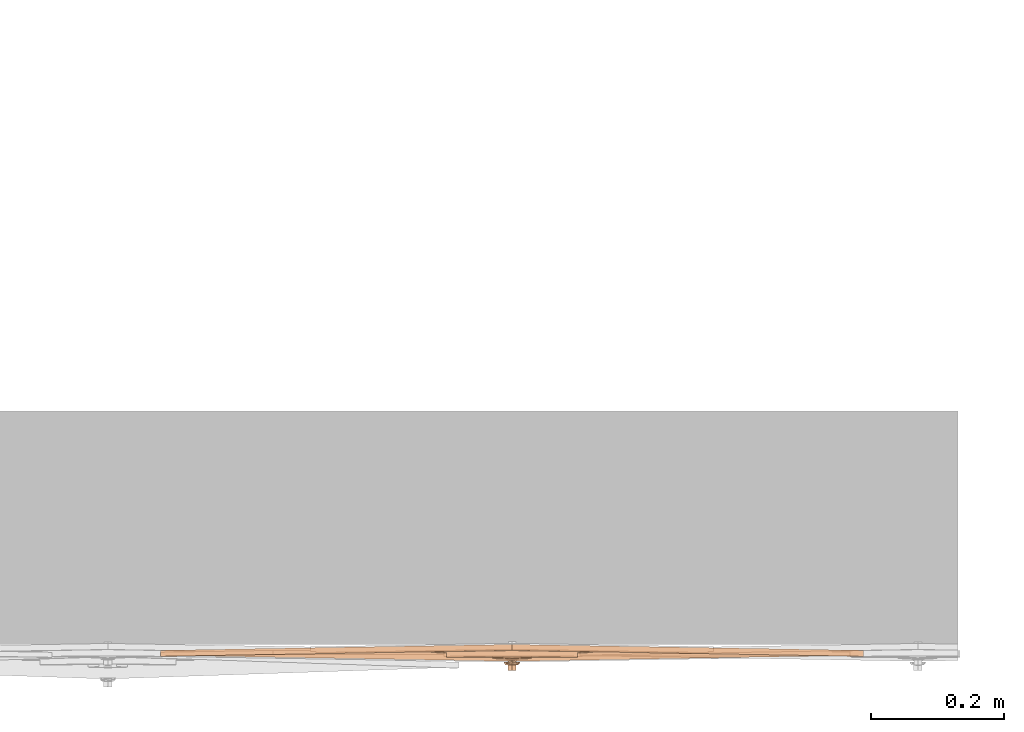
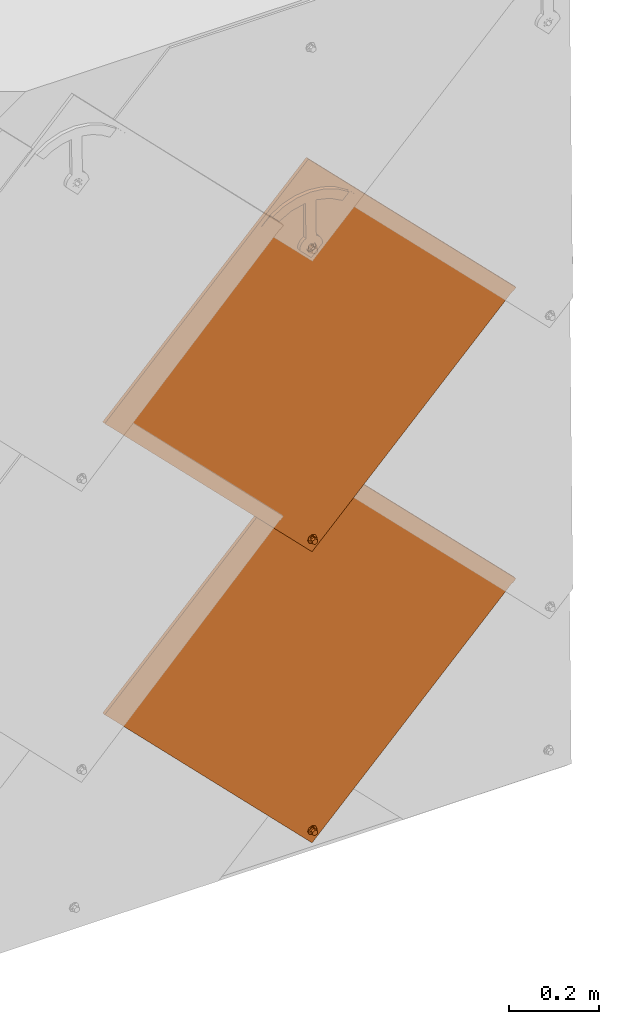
# One storey, part 7 of 151: 2 proxies.
"""IFC2X3 building model written with IfcOpenShell, lengths in millimetres."""

from ifc_helpers import new_model, entity, si_unit, converted_unit, derived_unit, direction, frame, origin, place, context, subcontext, project, spatial, faceted_brep, source, transform, mapped, material, material_list, type_object, type_shapes, element, save


model = new_model("IFC2X3")

# Units and contexts
model_context = context("Model", 3, precision=0.01, world=origin(), true_north=direction((6.12303176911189e-17, 1.0)))
body_context = subcontext(model_context, "Body", "Model", "MODEL_VIEW")
ifc_project = project(units=[si_unit("LENGTHUNIT", "METRE", prefix="MILLI"), si_unit("AREAUNIT", "SQUARE_METRE"), si_unit("VOLUMEUNIT", "CUBIC_METRE"), converted_unit("PLANEANGLEUNIT", "DEGREE", entity("IfcRatioMeasure", 0.0174532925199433), si_unit("PLANEANGLEUNIT", "RADIAN"), dimensions=[0, 0, 0, 0, 0, 0, 0]), si_unit("MASSUNIT", "GRAM", prefix="KILO"), derived_unit("MASSDENSITYUNIT", [(si_unit("MASSUNIT", "GRAM", prefix="KILO"), 1), (si_unit("LENGTHUNIT", "METRE"), -3)]), si_unit("TIMEUNIT", "SECOND"), si_unit("FREQUENCYUNIT", "HERTZ"), si_unit("THERMODYNAMICTEMPERATUREUNIT", "DEGREE_CELSIUS"), derived_unit("THERMALTRANSMITTANCEUNIT", [(si_unit("MASSUNIT", "GRAM", prefix="KILO"), 1), (si_unit("THERMODYNAMICTEMPERATUREUNIT", "KELVIN"), -1), (si_unit("TIMEUNIT", "SECOND"), -3)]), derived_unit("VOLUMETRICFLOWRATEUNIT", [(si_unit("LENGTHUNIT", "METRE"), 3), (si_unit("TIMEUNIT", "SECOND"), -1)]), si_unit("ELECTRICCURRENTUNIT", "AMPERE"), si_unit("ELECTRICVOLTAGEUNIT", "VOLT"), si_unit("POWERUNIT", "WATT"), si_unit("FORCEUNIT", "NEWTON", prefix="KILO"), si_unit("ILLUMINANCEUNIT", "LUX"), si_unit("LUMINOUSFLUXUNIT", "LUMEN"), si_unit("LUMINOUSINTENSITYUNIT", "CANDELA"), derived_unit("USERDEFINED", [(si_unit("MASSUNIT", "GRAM", prefix="KILO"), -1), (si_unit("LENGTHUNIT", "METRE"), -2), (si_unit("TIMEUNIT", "SECOND"), 3), (si_unit("LUMINOUSFLUXUNIT", "LUMEN"), 1)]), derived_unit("LINEARVELOCITYUNIT", [(si_unit("LENGTHUNIT", "METRE"), 1), (si_unit("TIMEUNIT", "SECOND"), -1)]), si_unit("PRESSUREUNIT", "PASCAL"), derived_unit("USERDEFINED", [(si_unit("LENGTHUNIT", "METRE"), -2), (si_unit("MASSUNIT", "GRAM", prefix="KILO"), 1), (si_unit("TIMEUNIT", "SECOND"), -2)])], contexts=[model_context])

# Site, building, storey
site_placement = place(None, origin())
site = spatial("IfcSite", under=ifc_project, at=site_placement, Name="Default", CompositionType="ELEMENT")
building_placement = place(site_placement, origin())
building = spatial("IfcBuilding", under=site, at=building_placement, CompositionType="ELEMENT")
storey_placement = place(building_placement, origin())
storey = spatial("IfcBuildingStorey", under=building, at=storey_placement, Name="Level 1", CompositionType="ELEMENT", Elevation=0.0)

# Proxies
ifc_material_1 = material(Name="Rubber - Sunstyle - Black")
ifc_material_2 = material(Name="Glass - Sunstyle - Tainted Terracotta")
ifc_material_list_1 = material_list([ifc_material_1, ifc_material_2])
ifc_material_list_2 = material_list([ifc_material_1, ifc_material_2])
building_element_proxy_type = type_object("IfcBuildingElementProxyType", Name="Non PV Shingle - Terracotta", PredefinedType="NOTDEFINED", material=ifc_material_list_2)
shared_shape = source(origin(), body_context, "Body", "Brep", [
    faceted_brep([(0.0, -485.159313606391, 4.00636906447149), (-5.77420283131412, -488.492583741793, 4.062193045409), (-5.77420283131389, -488.124274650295, 26.0540623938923), (0.0, -484.791004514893, 25.9982384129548), (-5.77420283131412, -495.159124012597, 4.17384100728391), (-5.7742028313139, -494.790814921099, 26.1657103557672), (0.0, -498.492394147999, 4.2296649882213), (0.0, -498.1240850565, 26.2215343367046), (5.77420283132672, -495.159124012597, 4.17384100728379), (5.77420283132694, -494.790814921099, 26.1657103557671), (5.77420283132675, -488.492583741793, 4.06219304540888), (5.77420283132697, -488.124274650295, 26.0540623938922), (-8.60370416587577, -500.060042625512, 26.2539568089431), (0.0, -503.623313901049, 26.3136327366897), (-12.1674751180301, -491.457544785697, 26.1098863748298), (-8.60370416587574, -482.855046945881, 25.9658159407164), (0.0, -479.291775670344, 25.9061400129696), (8.60370416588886, -482.855046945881, 25.9658159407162), (12.1674751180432, -491.457544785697, 26.1098863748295), (8.60370416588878, -500.060042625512, 26.2539568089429), (-11.3242446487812, -489.162467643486, 28.4227283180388), (-9.75647455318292, -491.386529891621, 30.3502110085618), (0.0, -484.073454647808, 30.9829114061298), (0.0, -482.832957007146, 30.4025647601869), (0.0, -480.675406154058, 29.3931896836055), (0.0, -503.067269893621, 27.5886907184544), (0.0, -502.123693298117, 29.7523951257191), (0.0, -498.67431759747, 31.227439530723), (0.0, -479.804811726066, 27.19910242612), (-6.32324569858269, -495.024101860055, 31.1663074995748), (-6.32324569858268, -487.723670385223, 31.0440434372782), (11.3242446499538, -493.673887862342, 28.4982833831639), (9.84888015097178, -492.460936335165, 30.2713428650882), (6.32324569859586, -487.723670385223, 31.0440434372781), (6.32324569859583, -495.024101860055, 31.1663074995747), (-6.32324569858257, -494.890073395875, 39.1691956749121), (0.0, -498.54028913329, 39.2303277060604), (0.0, -491.239857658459, 39.1080636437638), (-6.32324569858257, -487.589641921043, 39.0469316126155), (6.32324569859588, -494.890073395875, 39.169195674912), (6.32324569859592, -487.589641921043, 39.0469316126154), (0.0, -483.939426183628, 38.9857995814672), (0.0, -491.825853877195, 4.11801702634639)], [[[0, 1, 2, 3]], [[1, 4, 5, 2]], [[4, 6, 7, 5]], [[6, 8, 9, 7]], [[8, 10, 11, 9]], [[10, 0, 3, 11]], [[12, 7, 13]], [[7, 12, 5]], [[14, 5, 12]], [[5, 14, 2]], [[15, 2, 14]], [[3, 2, 15]], [[15, 16, 3]], [[16, 17, 3]], [[11, 3, 17]], [[11, 17, 18]], [[9, 11, 18]], [[18, 19, 9]], [[7, 9, 19]], [[19, 13, 7]], [[20, 14, 12]], [[21, 22, 23, 24]], [[24, 20, 21]], [[25, 20, 12]], [[26, 27, 21]], [[15, 14, 20]], [[12, 13, 25]], [[20, 28, 15]], [[28, 20, 24]], [[21, 27, 29]], [[21, 29, 30]], [[26, 21, 20]], [[20, 25, 26]], [[15, 28, 16]], [[21, 30, 22]], [[31, 18, 17]], [[28, 31, 17]], [[32, 27, 26]], [[26, 31, 32]], [[26, 25, 31]], [[25, 19, 31]], [[17, 16, 28]], [[31, 19, 18]], [[24, 31, 28]], [[33, 34, 32]], [[23, 22, 33]], [[24, 32, 31]], [[27, 32, 34]], [[32, 23, 33]], [[19, 25, 13]], [[32, 24, 23]], [[35, 36, 37]], [[37, 38, 35]], [[36, 39, 37]], [[40, 37, 39]], [[37, 40, 41]], [[37, 41, 38]], [[42, 6, 4]], [[4, 1, 42]], [[1, 0, 42]], [[42, 8, 6]], [[0, 10, 42]], [[8, 42, 10]], [[22, 30, 38, 41]], [[30, 29, 35, 38]], [[29, 27, 36, 35]], [[27, 34, 39, 36]], [[34, 33, 40, 39]], [[33, 22, 41, 40]]]),
    faceted_brep([(0.0, 284.789208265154, 20.3195200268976), (0.0, 289.288576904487, 20.2441667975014), (-8.60370416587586, 288.352479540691, 20.259844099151), (8.60370416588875, 288.352479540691, 20.2598440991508), (6.64022859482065, 293.121777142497, 20.1799702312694), (12.1674751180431, 296.954977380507, 20.1157736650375), (6.64022859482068, 300.788177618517, 20.0515770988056), (8.60370416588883, 305.557475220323, 19.9717032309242), (0.0, 304.621377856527, 19.9873805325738), (0.0, 309.12074649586, 19.9120273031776), (-8.60370416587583, 305.557475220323, 19.9717032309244), (-6.64022859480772, 300.788177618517, 20.0515770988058), (-12.1674751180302, 296.954977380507, 20.1157736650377), (-6.64022859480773, 293.121777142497, 20.1799702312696), (-6.6402282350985, 300.520254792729, 4.05382046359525), (0.0, 304.35345482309, 3.9896239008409), (-6.64022823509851, 292.853854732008, 4.18221358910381), (0.0, 289.020654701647, 4.24641015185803), (6.64022823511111, 292.853854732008, 4.18221358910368), (6.64022823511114, 300.520254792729, 4.05382046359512), (-8.60370416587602, 288.084556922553, 4.26208746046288), (0.0, 284.521285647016, 4.32176338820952), (-12.1674751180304, 296.687054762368, 4.11801702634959), (-8.603704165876, 305.289552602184, 3.97394659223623), (0.0, 308.852823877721, 3.91427066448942), (8.60370416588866, 305.289552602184, 3.97394659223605), (12.167475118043, 296.687054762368, 4.11801702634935), (8.60370416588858, 288.084556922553, 4.26208746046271)], [[[0, 1, 2]], [[1, 0, 3]], [[3, 4, 1]], [[4, 3, 5]], [[6, 4, 5]], [[5, 7, 6]], [[7, 8, 6]], [[8, 7, 9]], [[8, 9, 10]], [[10, 11, 8]], [[12, 11, 10]], [[2, 13, 12]], [[12, 13, 11]], [[13, 2, 1]], [[8, 11, 14, 15]], [[11, 13, 16, 14]], [[13, 1, 17, 16]], [[1, 4, 18, 17]], [[4, 6, 19, 18]], [[6, 8, 15, 19]], [[20, 17, 21]], [[17, 20, 16]], [[22, 16, 20]], [[14, 16, 22]], [[23, 14, 22]], [[15, 14, 23]], [[23, 24, 15]], [[24, 25, 15]], [[19, 15, 25]], [[19, 25, 26]], [[26, 18, 19]], [[26, 27, 18]], [[17, 18, 27]], [[27, 21, 17]], [[24, 23, 10, 9]], [[10, 23, 22, 12]], [[20, 21, 0, 2]], [[20, 2, 12, 22]], [[21, 27, 3, 0]], [[3, 27, 26, 5]], [[25, 24, 9, 7]], [[25, 7, 5, 26]]]),
    faceted_brep([(518.347125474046, -8.50591218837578, 16.4460771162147), (526.831811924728, -0.0212257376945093, 16.3039797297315), (526.831811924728, 0.00389200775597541, 17.8037694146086), (518.347125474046, -8.48079444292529, 17.9458668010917), (0.000322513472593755, 509.695546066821, 7.76749207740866), (-518.346480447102, -8.50591218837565, 16.4460771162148), (-526.831166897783, -0.021225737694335, 16.3039797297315), (0.000322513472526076, 526.662539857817, 7.48333714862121), (0.000322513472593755, 526.687657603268, 8.98312683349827), (-526.831166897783, 0.00389200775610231, 17.8037694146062), (-518.346480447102, -8.48079444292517, 17.9458668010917), (0.000322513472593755, 509.720663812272, 9.26728176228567)], [[[0, 1, 2, 3]], [[1, 0, 4, 5, 6, 7]], [[2, 1, 7, 8]], [[3, 2, 8, 9, 10, 11]], [[0, 3, 11, 4]], [[5, 10, 9, 6]], [[8, 7, 6, 9]], [[4, 11, 10, 5]]]),
    faceted_brep([(0.000322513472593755, 526.662539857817, 7.48333714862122), (-3.10582854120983, 308.054627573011, 11.1444757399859), (0.0, 308.46346032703, 11.1376288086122), (-6.0, 306.855990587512, 11.1645499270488), (3.10582854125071, 308.054627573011, 11.1444757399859), (6.0, 306.855990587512, 11.1645499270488), (8.4852813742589, 304.949234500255, 11.1964833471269), (10.3923048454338, 302.464301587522, 11.2380997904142), (-8.48528137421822, 304.949234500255, 11.1964833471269), (-10.3923048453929, 302.464301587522, 11.2380997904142), (-11.5911099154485, 299.570535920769, 11.2865631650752), (-526.831166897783, -0.0212257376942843, 16.3039797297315), (11.5911099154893, 299.570535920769, 11.2865631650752), (526.831811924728, -0.021225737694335, 16.3039797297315), (-12.0, 296.465142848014, 11.3385707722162), (-11.5911099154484, 293.359749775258, 11.3905783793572), (-10.392304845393, 290.465984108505, 11.4390417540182), (-8.48528137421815, 287.981051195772, 11.4806581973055), (-6.0, 286.074295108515, 11.5125916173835), (-3.10582854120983, 284.875658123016, 11.5326658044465), (-2.07055236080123, -483.623303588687, 24.4031112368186), (-4.0, -484.422394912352, 24.4164940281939), (-5.65685424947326, -485.693565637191, 24.4377829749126), (-6.92820323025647, -487.350187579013, 24.4655272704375), (-7.72740661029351, -489.279364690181, 24.4978361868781), (-8.0, -491.349626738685, 24.5325079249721), (-7.72740661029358, -493.419888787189, 24.5671796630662), (0.000322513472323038, -526.704991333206, 25.1246223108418), (-6.92820323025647, -495.349065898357, 24.5994885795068), (-5.65685424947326, -497.005687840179, 24.6272328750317), (-4.0, -498.276858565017, 24.6485218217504), (-2.0705523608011, -499.075949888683, 24.6619046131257), (0.0, -499.348505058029, 24.6664692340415), (2.07055236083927, -499.075949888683, 24.6619046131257), (4.0, -498.276858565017, 24.6485218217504), (5.65685424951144, -497.005687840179, 24.6272328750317), (6.92820323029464, -495.349065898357, 24.5994885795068), (7.72740661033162, -493.419888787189, 24.5671796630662), (12.0, 296.465142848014, 11.3385707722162), (11.5911099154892, 293.359749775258, 11.3905783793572), (10.3923048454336, 290.465984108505, 11.4390417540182), (8.4852813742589, 287.981051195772, 11.4806581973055), (6.0, 286.074295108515, 11.5125916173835), (3.10582854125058, 284.875658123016, 11.5326658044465), (2.07055236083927, -483.623303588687, 24.4031112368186), (4.0, -484.422394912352, 24.4164940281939), (5.65685424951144, -485.69356563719, 24.4377829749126), (8.0, -491.349626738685, 24.5325079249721), (7.72740661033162, -489.279364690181, 24.4978361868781), (6.92820323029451, -487.350187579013, 24.4655272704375), (0.0, 284.466825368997, 11.5395127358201), (0.0, -483.350748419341, 24.3985466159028), (-526.831166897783, -0.146814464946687, 8.80503130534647), (-6.92820323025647, -487.475776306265, 16.9665788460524), (-7.72740661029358, -489.404953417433, 16.9988877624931), (-5.65685424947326, -485.819154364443, 16.9388345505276), (-8.0, -491.475215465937, 17.0335595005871), (-7.72740661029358, -493.545477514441, 17.0682312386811), (0.000322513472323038, -526.830580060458, 17.6256738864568), (-4.0, -484.547983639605, 16.9175456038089), (-2.07055236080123, -483.748892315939, 16.9041628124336), (-3.10582854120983, 284.750069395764, 4.03371738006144), (-6.0, 285.948706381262, 4.01364319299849), (-8.48528137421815, 287.85546246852, 3.98170977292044), (-10.392304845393, 290.340395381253, 3.94009332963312), (-11.5911099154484, 293.234161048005, 3.89162995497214), (-12.0, 296.339554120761, 3.83962234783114), (-11.5911099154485, 299.444947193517, 3.78761474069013), (0.000322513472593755, 526.536951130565, -0.0156112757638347), (-10.3923048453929, 302.338712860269, 3.73915136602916), (-8.48528137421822, 304.823645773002, 3.69753492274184), (-6.0, 306.73040186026, 3.66560150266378), (-3.10582854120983, 307.929038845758, 3.64552731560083), (0.0, 308.337871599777, 3.63868038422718), (3.10582854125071, 307.929038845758, 3.64552731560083), (6.0, 306.73040186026, 3.66560150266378), (8.4852813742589, 304.823645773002, 3.69753492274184), (10.3923048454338, 302.338712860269, 3.73915136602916), (11.5911099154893, 299.444947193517, 3.78761474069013), (526.831811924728, -0.146814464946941, 8.80503130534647), (7.72740661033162, -493.545477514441, 17.0682312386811), (8.0, -491.475215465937, 17.0335595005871), (7.72740661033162, -489.404953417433, 16.9988877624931), (6.92820323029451, -487.475776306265, 16.9665788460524), (5.65685424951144, -485.819154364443, 16.9388345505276), (4.0, -484.547983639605, 16.9175456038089), (2.07055236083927, -483.748892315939, 16.9041628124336), (3.10582854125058, 284.750069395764, 4.03371738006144), (6.0, 285.948706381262, 4.01364319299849), (12.0, 296.339554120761, 3.83962234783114), (11.5911099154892, 293.234161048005, 3.89162995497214), (10.3923048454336, 290.340395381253, 3.94009332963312), (8.4852813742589, 287.85546246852, 3.98170977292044), (0.0, 284.341236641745, 4.04056431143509), (0.0, -483.476337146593, 16.8995981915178), (-6.92820323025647, -495.474654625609, 17.1005401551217), (-5.65685424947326, -497.131276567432, 17.1282844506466), (-4.0, -498.40244729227, 17.1495733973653), (-2.0705523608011, -499.201538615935, 17.1629561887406), (0.0, -499.474093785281, 17.1675208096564), (2.07055236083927, -499.201538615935, 17.1629561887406), (4.0, -498.40244729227, 17.1495733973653), (5.65685424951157, -497.131276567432, 17.1282844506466), (6.92820323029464, -495.474654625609, 17.1005401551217)], [[[0, 1, 2]], [[1, 0, 3]], [[0, 2, 4]], [[4, 5, 0]], [[5, 6, 0]], [[0, 6, 7]], [[8, 3, 0]], [[9, 8, 0]], [[9, 0, 10]], [[10, 0, 11]], [[12, 0, 7]], [[12, 13, 0]], [[11, 14, 10]], [[14, 11, 15]], [[16, 15, 11]], [[16, 11, 17]], [[18, 17, 11]], [[11, 19, 18]], [[19, 11, 20]], [[21, 20, 11]], [[11, 22, 21]], [[22, 11, 23]], [[23, 11, 24]], [[25, 24, 11]], [[25, 11, 26]], [[26, 11, 27]], [[27, 28, 26]], [[29, 28, 27]], [[30, 29, 27]], [[31, 30, 27]], [[27, 32, 31]], [[32, 27, 33]], [[34, 33, 27]], [[34, 27, 35]], [[36, 35, 27]], [[37, 36, 27]], [[37, 27, 13]], [[12, 38, 13]], [[39, 13, 38]], [[13, 39, 40]], [[13, 40, 41]], [[41, 42, 13]], [[42, 43, 13]], [[13, 43, 44]], [[45, 13, 44]], [[46, 13, 45]], [[47, 37, 13]], [[48, 47, 13]], [[49, 48, 13]], [[46, 49, 13]], [[20, 50, 19]], [[51, 50, 20]], [[44, 50, 51]], [[43, 50, 44]], [[52, 53, 54]], [[53, 52, 55]], [[52, 54, 56]], [[56, 57, 52]], [[52, 57, 58]], [[59, 55, 52]], [[60, 59, 52]], [[60, 52, 61]], [[61, 52, 62]], [[63, 62, 52]], [[64, 63, 52]], [[65, 64, 52]], [[66, 65, 52]], [[66, 52, 67]], [[52, 68, 67]], [[69, 67, 68]], [[70, 69, 68]], [[68, 71, 70]], [[71, 68, 72]], [[72, 68, 73]], [[74, 73, 68]], [[74, 68, 75]], [[76, 75, 68]], [[68, 77, 76]], [[77, 68, 78]], [[68, 79, 78]], [[58, 80, 79]], [[81, 79, 80]], [[81, 82, 79]], [[82, 83, 79]], [[84, 79, 83]], [[79, 84, 85]], [[85, 86, 79]], [[87, 79, 86]], [[87, 88, 79]], [[89, 78, 79]], [[79, 90, 89]], [[90, 79, 91]], [[92, 91, 79]], [[92, 79, 88]], [[93, 60, 61]], [[93, 86, 94]], [[94, 60, 93]], [[87, 86, 93]], [[58, 57, 95]], [[96, 58, 95]], [[96, 97, 58]], [[97, 98, 58]], [[99, 58, 98]], [[58, 99, 100]], [[58, 100, 101]], [[101, 102, 58]], [[102, 103, 58]], [[103, 80, 58]], [[11, 0, 68, 52]], [[27, 11, 52, 58]], [[13, 27, 58, 79]], [[0, 13, 79, 68]], [[25, 56, 54, 24]], [[24, 54, 53, 23]], [[21, 22, 55, 59]], [[55, 22, 23, 53]], [[20, 21, 59, 60]], [[20, 60, 94, 51]], [[51, 94, 86, 44]], [[44, 86, 85, 45]], [[49, 46, 84, 83]], [[84, 46, 45, 85]], [[48, 49, 83, 82]], [[48, 82, 81, 47]], [[47, 81, 80, 37]], [[37, 80, 103, 36]], [[34, 35, 102, 101]], [[102, 35, 36, 103]], [[33, 34, 101, 100]], [[33, 100, 99, 32]], [[32, 99, 98, 31]], [[31, 98, 97, 30]], [[28, 29, 96, 95]], [[96, 29, 30, 97]], [[26, 28, 95, 57]], [[26, 57, 56, 25]], [[14, 66, 67, 10]], [[10, 67, 69, 9]], [[3, 8, 70, 71]], [[70, 8, 9, 69]], [[1, 3, 71, 72]], [[1, 72, 73, 2]], [[2, 73, 74, 4]], [[4, 74, 75, 5]], [[7, 6, 76, 77]], [[76, 6, 5, 75]], [[12, 7, 77, 78]], [[12, 78, 89, 38]], [[38, 89, 90, 39]], [[39, 90, 91, 40]], [[42, 41, 92, 88]], [[40, 91, 92, 41]], [[87, 43, 42, 88]], [[43, 87, 93, 50]], [[50, 93, 61, 19]], [[19, 61, 62, 18]], [[16, 17, 63, 64]], [[63, 17, 18, 62]], [[15, 16, 64, 65]], [[15, 65, 66, 14]]]),
    faceted_brep([(-103.640919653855, 371.082989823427, 12.5892580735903), (-81.5635806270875, 393.15723338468, 12.2195694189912), (-98.1147183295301, 409.705441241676, 11.9424281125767), (-106.2656930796, 403.014562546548, 12.0544836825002), (-113.962762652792, 395.806279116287, 12.1752044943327), (-121.16572423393, 388.605337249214, 12.295802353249), (121.446435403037, 388.886009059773, 12.2911017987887), (110.715435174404, 399.614000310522, 12.1114346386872), (104.744439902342, 405.287275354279, 12.0164213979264), (98.4920378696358, 410.648923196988, 11.9266271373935), (98.074476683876, 410.231479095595, 11.933618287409), (98.234751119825, 410.108922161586, 11.9356708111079), (98.3948723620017, 409.986165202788, 11.9377266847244), (81.6917048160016, 393.285339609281, 12.2174239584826), (103.769043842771, 371.211096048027, 12.5871126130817), (-23.2046504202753, 315.000563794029, 21.029550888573), (-8.48528137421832, 305.451589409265, 21.1894724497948), (-18.7041061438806, 319.633569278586, 20.951959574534), (-10.392304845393, 302.966656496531, 21.2310888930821), (-26.5842195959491, 309.496413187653, 21.1217317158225), (-11.5911099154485, 300.072890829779, 21.2795522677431), (-28.6795527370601, 303.387013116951, 21.2240489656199), (-12.0, 296.967497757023, 21.3315598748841), (-29.3894280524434, 296.967497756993, 21.3315598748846), (-11.5911099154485, 293.862104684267, 21.3835674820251), (-10.392304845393, 290.968339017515, 21.4320308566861), (-8.48528137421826, 288.483406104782, 21.4736472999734), (0.0, 267.58219039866, 21.8236906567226), (-6.0, 286.576650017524, 21.5055807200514), (-3.10582854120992, 285.378013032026, 21.5256549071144), (0.0, 284.969180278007, 21.532501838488), (3.10582854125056, 285.378013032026, 21.5256549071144), (6.0, 286.576650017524, 21.5055807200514), (8.48528137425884, 288.483406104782, 21.4736472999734), (29.389428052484, 296.967497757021, 21.3315598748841), (10.3923048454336, 290.968339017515, 21.4320308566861), (11.5911099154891, 293.862104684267, 21.3835674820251), (12.0, 296.967497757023, 21.3315598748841), (28.6795527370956, 303.387013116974, 21.2240489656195), (11.5911099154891, 300.072890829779, 21.2795522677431), (26.5842195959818, 309.49641318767, 21.1217317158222), (10.3923048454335, 302.966656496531, 21.2310888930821), (23.2046504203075, 315.000563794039, 21.0295508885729), (8.48528137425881, 305.451589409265, 21.1894724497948), (18.7041061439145, 319.633569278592, 20.9519595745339), (6.0, 307.358345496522, 21.1575390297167), (13.3000000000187, 323.171617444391, 20.8927060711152), (3.10582854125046, 308.55698248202, 21.1374648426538), (0.0, 308.965815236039, 21.1306179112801), (-13.2999999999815, 323.171617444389, 20.8927060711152), (-13.2999999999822, 418.050603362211, 19.3037191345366), (13.3000000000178, 418.050603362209, 19.3037191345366), (0.0, 443.522216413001, 18.8771329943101), (34.9852699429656, 439.689674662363, 18.9413185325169), (48.8881158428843, 409.917561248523, 19.4399273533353), (68.3106161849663, 428.373889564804, 19.1308297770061), (81.1868897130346, 392.906184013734, 19.7248255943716), (98.3948723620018, 410.11175393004, 19.4366751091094), (-34.9852699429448, 439.689674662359, 18.941318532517), (-48.8881158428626, 409.917561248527, 19.4399273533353), (-68.3106161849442, 428.373889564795, 19.1308297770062), (-81.1868897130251, 392.906184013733, 19.7248255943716), (-98.3948723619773, 410.111753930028, 19.4366751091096), (-6.0, 307.358345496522, 21.1575390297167), (-3.10582854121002, 308.55698248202, 21.1374648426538), (0.0, 267.414738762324, 11.8250927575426), (0.0, 284.80172864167, 11.533903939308), (3.10582854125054, 285.210561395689, 11.5270570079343), (-3.10582854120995, 285.210561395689, 11.5270570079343), (6.0, 286.409198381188, 11.5069828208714), (8.48528137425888, 288.315954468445, 11.4750494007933), (29.389428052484, 296.800046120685, 11.332961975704), (-6.0, 286.409198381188, 11.5069828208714), (-8.48528137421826, 288.315954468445, 11.4750494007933), (-29.3894280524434, 296.800046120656, 11.3329619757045), (-10.392304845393, 290.800887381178, 11.433432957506), (-11.5911099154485, 293.694653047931, 11.384969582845), (-12.0, 296.800046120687, 11.332961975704), (-28.6795527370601, 303.219561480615, 11.2254510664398), (-11.5911099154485, 299.905439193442, 11.280954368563), (-26.5842195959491, 309.328961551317, 11.1231338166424), (-10.392304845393, 302.799204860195, 11.232490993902), (-23.2046504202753, 314.833112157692, 11.030952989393), (-8.48528137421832, 305.284137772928, 11.1908745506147), (-18.7041061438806, 319.466117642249, 10.9533616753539), (-6.0, 307.190893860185, 11.1589411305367), (-13.2999999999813, 323.004165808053, 10.8941081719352), (-3.10582854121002, 308.389530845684, 11.1388669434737), (0.0, 308.798363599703, 11.1320200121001), (13.3000000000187, 323.004165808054, 10.8941081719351), (13.3000000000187, 417.883151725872, 9.30512123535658), (-13.2999999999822, 417.883151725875, 9.30512123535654), (-0.199443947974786, 443.35464169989, 8.87853715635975), (-35.1150635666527, 439.493384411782, 8.94320360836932), (-48.8881158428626, 409.75010961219, 9.44132945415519), (-68.3708539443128, 428.178324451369, 9.13270270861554), (-81.5627248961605, 393.11622608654, 9.71990561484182), (-81.1868897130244, 392.738732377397, 9.72622769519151), (-98.1143736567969, 409.663842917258, 9.44277420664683), (-106.2656930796, 402.972699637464, 9.5548342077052), (-103.640919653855, 371.041126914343, 10.0896085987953), (-113.962762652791, 395.764416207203, 9.67555501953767), (-121.16572423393, 388.56347434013, 9.79615287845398), (-98.3948723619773, 409.944302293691, 9.43807720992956), (34.7256001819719, 439.579582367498, 8.94176000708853), (48.8881158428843, 409.750109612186, 9.44132945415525), (68.0092206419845, 428.346649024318, 9.12988369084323), (81.6917048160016, 393.243476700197, 9.71777448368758), (98.0744766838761, 410.189616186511, 9.43396881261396), (104.744439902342, 405.245412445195, 9.51677192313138), (98.4920378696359, 410.607060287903, 9.42697766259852), (110.715435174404, 399.572137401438, 9.61178516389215), (103.769043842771, 371.169233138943, 10.0874631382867), (121.446435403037, 388.844146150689, 9.7914523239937), (81.1868897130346, 392.738732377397, 9.7262276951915), (3.10582854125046, 308.389530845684, 11.1388669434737), (6.0, 307.190893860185, 11.1589411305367), (18.7041061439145, 319.466117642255, 10.9533616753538), (8.48528137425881, 305.284137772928, 11.1908745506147), (23.2046504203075, 314.833112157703, 11.0309529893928), (10.3923048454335, 302.799204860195, 11.232490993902), (26.5842195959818, 309.328961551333, 11.1231338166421), (11.5911099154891, 299.905439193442, 11.280954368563), (28.6795527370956, 303.219561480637, 11.2254510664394), (12.0, 296.800046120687, 11.332961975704), (10.3923048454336, 290.800887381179, 11.433432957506), (11.5911099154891, 293.694653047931, 11.384969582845)], [[[0, 1, 2, 3, 4, 5]], [[6, 7, 8, 9, 10, 11, 12, 13, 14]], [[15, 16, 17]], [[18, 16, 15]], [[19, 18, 15]], [[20, 18, 19]], [[19, 21, 20]], [[21, 22, 20]], [[22, 21, 23]], [[24, 22, 23]], [[25, 24, 23]], [[25, 23, 26]], [[23, 27, 26]], [[28, 26, 27]], [[28, 27, 29]], [[27, 30, 29]], [[30, 27, 31]], [[31, 27, 32]], [[33, 32, 27]], [[33, 27, 34]], [[34, 35, 33]], [[36, 35, 34]], [[37, 36, 34]], [[34, 38, 37]], [[39, 37, 38]], [[38, 40, 39]], [[40, 41, 39]], [[41, 40, 42]], [[43, 41, 42]], [[42, 44, 43]], [[45, 43, 44]], [[44, 46, 45]], [[45, 46, 47]], [[47, 46, 48]], [[46, 49, 48]], [[46, 50, 49]], [[46, 51, 50]], [[52, 50, 51]], [[51, 53, 52]], [[51, 54, 53]], [[53, 54, 55]], [[54, 56, 55]], [[56, 57, 55]], [[58, 50, 52]], [[50, 58, 59]], [[60, 59, 58]], [[60, 61, 59]], [[61, 60, 62]], [[63, 49, 17]], [[63, 64, 49]], [[49, 64, 48]], [[63, 17, 16]], [[65, 66, 67]], [[66, 65, 68]], [[65, 67, 69]], [[69, 70, 65]], [[65, 70, 71]], [[72, 68, 65]], [[72, 65, 73]], [[73, 65, 74]], [[74, 75, 73]], [[75, 74, 76]], [[76, 74, 77]], [[78, 77, 74]], [[79, 77, 78]], [[78, 80, 79]], [[79, 80, 81]], [[80, 82, 81]], [[83, 81, 82]], [[84, 83, 82]], [[84, 85, 83]], [[86, 85, 84]], [[86, 87, 85]], [[88, 87, 86]], [[89, 88, 86]], [[89, 86, 90]], [[91, 90, 86]], [[91, 92, 90]], [[92, 91, 93]], [[94, 93, 91]], [[93, 94, 95]], [[94, 96, 95]], [[94, 97, 96]], [[98, 95, 96]], [[99, 98, 96]], [[96, 100, 99]], [[99, 100, 101]], [[102, 101, 100]], [[95, 98, 103]], [[104, 90, 92]], [[90, 104, 105]], [[106, 105, 104]], [[107, 105, 106]], [[106, 108, 107]], [[108, 109, 107]], [[109, 108, 110]], [[111, 107, 109]], [[111, 112, 107]], [[113, 112, 111]], [[107, 114, 105]], [[115, 88, 89]], [[116, 115, 89]], [[116, 89, 117]], [[117, 118, 116]], [[119, 118, 117]], [[119, 120, 118]], [[119, 121, 120]], [[121, 122, 120]], [[122, 121, 123]], [[71, 124, 123]], [[124, 122, 123]], [[71, 70, 125]], [[125, 126, 71]], [[126, 124, 71]], [[49, 50, 91, 86]], [[17, 49, 86, 84]], [[15, 17, 84, 82]], [[82, 80, 19, 15]], [[21, 19, 80, 78]], [[23, 21, 78, 74]], [[27, 23, 74, 65]], [[0, 5, 102, 100]], [[34, 27, 65, 71]], [[6, 14, 112, 113]], [[38, 34, 71, 123]], [[40, 38, 123, 121]], [[121, 119, 42, 40]], [[44, 42, 119, 117]], [[46, 44, 117, 89]], [[51, 46, 89, 90]], [[11, 10, 57]], [[108, 106, 10]], [[10, 106, 55]], [[12, 11, 57]], [[57, 10, 55]], [[106, 53, 55]], [[106, 104, 53]], [[52, 104, 92]], [[92, 93, 58]], [[95, 60, 93]], [[52, 92, 58]], [[95, 62, 60]], [[60, 58, 93]], [[62, 95, 103]], [[104, 52, 53]], [[22, 77, 79, 20]], [[20, 79, 81, 18]], [[63, 16, 83, 85]], [[81, 83, 16, 18]], [[64, 63, 85, 87]], [[88, 48, 64, 87]], [[47, 115, 116, 45]], [[45, 116, 118, 43]], [[39, 41, 120, 122]], [[118, 120, 41, 43]], [[37, 39, 122, 124]], [[47, 48, 88, 115]], [[37, 124, 126, 36]], [[36, 126, 125, 35]], [[32, 33, 70, 69]], [[125, 70, 33, 35]], [[31, 32, 69, 67]], [[66, 30, 31, 67]], [[29, 68, 72, 28]], [[28, 72, 73, 26]], [[24, 25, 75, 76]], [[73, 75, 25, 26]], [[22, 24, 76, 77]], [[29, 30, 66, 68]], [[7, 6, 113, 111]], [[7, 111, 109, 8]], [[109, 110, 9, 8]], [[14, 13, 107, 112]], [[1, 0, 100, 96]], [[2, 98, 3]], [[3, 98, 99]], [[99, 101, 4, 3]], [[5, 4, 101, 102]], [[97, 94, 59, 61]], [[91, 50, 59, 94]], [[90, 105, 54, 51]], [[114, 56, 54, 105]], [[10, 9, 110, 108]], [[62, 2, 1]], [[2, 62, 103]], [[61, 62, 1, 97]], [[103, 98, 2]], [[96, 97, 1]], [[57, 56, 114, 107, 13, 12]]]),
])
type_shapes(building_element_proxy_type, [shared_shape])
proxy_1_placement = place(storey_placement, frame((-11875.0903240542, -13191.873651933, 1581.22675427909), z_axis=(0.0, -1.0, 0.0), x_axis=(1.0, 0.0, 0.0)))
element("IfcBuildingElementProxy", 1, at=proxy_1_placement, inside=storey, type_object=building_element_proxy_type, material=ifc_material_list_1, Name="Roofing_Panels_SunStyle_Tile_Non-PV-Shingle:Non PV Shingle - Terracotta", ObjectType="Roofing_Panels_SunStyle_Tile_Non-PV-Shingle:Non PV Shingle - Terracotta", context=body_context, shape_type="MappedRepresentation", body=[
    mapped(shared_shape, transform((0.0, 0.0, 0.0), scale=1.0)),
])
ifc_material_list_3 = material_list([ifc_material_1, ifc_material_2])
proxy_2_placement = place(storey_placement, frame((-11875.0903240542, -13191.873651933, 792.814232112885), z_axis=(0.0, -1.0, 0.0), x_axis=(1.0, 0.0, 0.0)))
element("IfcBuildingElementProxy", 2, at=proxy_2_placement, inside=storey, type_object=building_element_proxy_type, material=ifc_material_list_3, Name="Roofing_Panels_SunStyle_Tile_Non-PV-Shingle:Non PV Shingle - Terracotta", ObjectType="Roofing_Panels_SunStyle_Tile_Non-PV-Shingle:Non PV Shingle - Terracotta", context=body_context, shape_type="MappedRepresentation", body=[
    mapped(shared_shape, transform((0.0, 0.0, 0.0), scale=1.0)),
])

save(model, "model.ifc")
